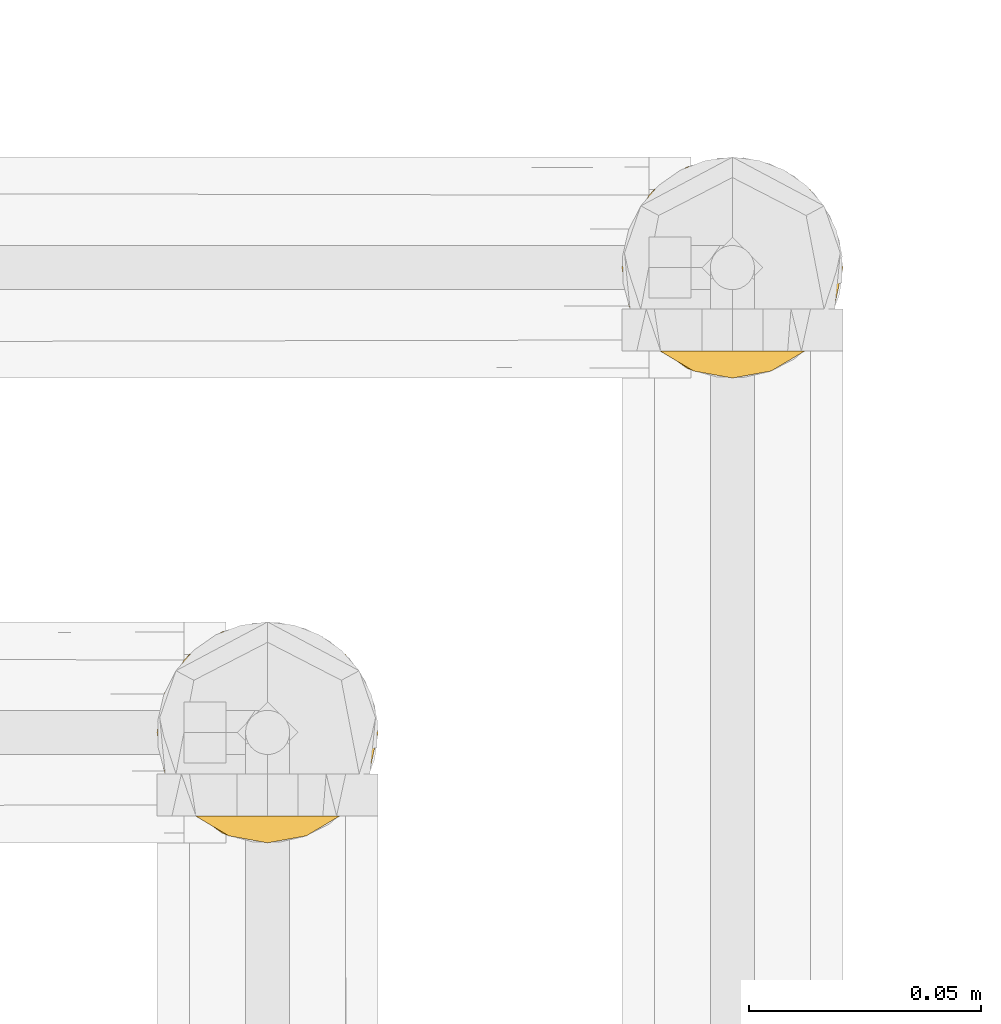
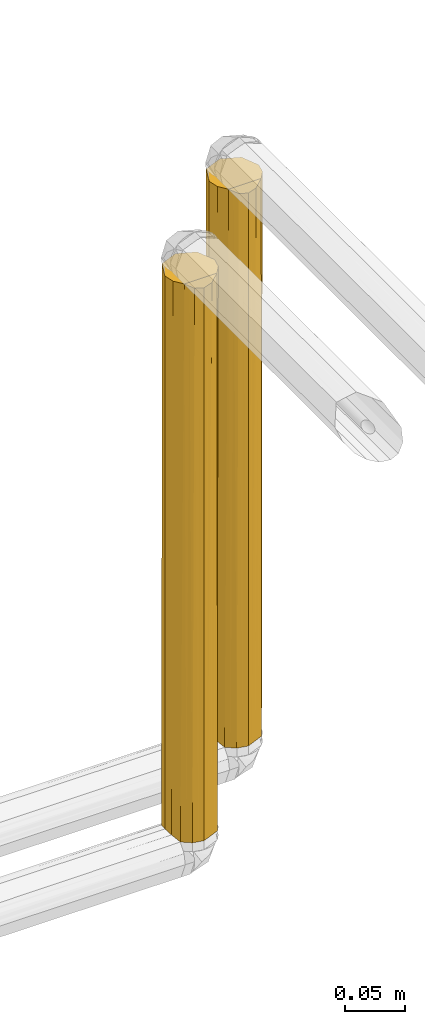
# One storey, part 229 of 652: 2 coverings.
"""IFC2X3 building model written with IfcOpenShell, lengths in millimetres."""

from ifc_helpers import new_model, entity, si_unit, converted_unit, direction, frame, origin, place, context, subcontext, project, spatial, faceted_brep, material, type_object, element, save


model = new_model("IFC2X3")

# Units and contexts
model_context = context("Model", 3, precision=0.01, world=frame((0.0, 0.0, 308426.39999999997)), true_north=direction((6.123233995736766e-17, 1.0)))
plan_context = context("Plan", 3, precision=0.01, world=frame((0.0, 0.0, 308426.39999999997)), true_north=direction((6.123233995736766e-17, 1.0)))
body_context = subcontext(model_context, "Body", "Model", "MODEL_VIEW")
ifc_project = project(units=[si_unit("LENGTHUNIT", "METRE", prefix="MILLI"), si_unit("AREAUNIT", "SQUARE_METRE"), si_unit("VOLUMEUNIT", "CUBIC_METRE"), converted_unit("PLANEANGLEUNIT", "DEGREE", entity("IfcPlaneAngleMeasure", 0.017453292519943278), si_unit("PLANEANGLEUNIT", "RADIAN"), dimensions=[0, 0, 0, 0, 0, 0, 0])], contexts=[model_context, plan_context])

# Site, building, storey
site_placement = place(None, origin())
site = spatial("IfcSite", under=ifc_project, at=site_placement, Name="Default", CompositionType="ELEMENT")
building_placement = place(site_placement, origin())
building = spatial("IfcBuilding", under=site, at=building_placement, CompositionType="ELEMENT")
storey_placement = place(building_placement, frame((0.0, 0.0, 1730.6999999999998)))
storey = spatial("IfcBuildingStorey", under=building, at=storey_placement, Name="EG_Produktion_FFB", CompositionType="ELEMENT", Elevation=1730.6999999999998)

# Coverings
ifc_material = material(Name="Dämmung - Armaflex-Schlauch")
covering_type = type_object("IfcCoveringType", Name="Rohrdämmung außen:Armaflex-Schlauch", PredefinedType="INSULATION")
covering_1_placement = place(storey_placement, frame((73106.95466089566, 79829.64488314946, 2716.3549777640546)))
element("IfcCovering", 1, at=covering_1_placement, inside=storey, type_object=covering_type, material=ifc_material, Name="Rohrdämmung außen:Armaflex-Schlauch", ObjectType="Rohrdämmung außen:Armaflex-Schlauch", PredefinedType="INSULATION", context=body_context, shape_type="Brep", body=[
    faceted_brep([(7.407522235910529, 9.787128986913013, 1.5952722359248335), (7.407522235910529, 40.92841548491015, 1.5952722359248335), (11.4481056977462, 43.951164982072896, 1.595272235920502), (15.48868915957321, 46.97391447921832, 1.595272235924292), (20.423230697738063, 48.047093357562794, 1.595272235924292), (25.357772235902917, 49.12027223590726, 1.595272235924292), (29.864407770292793, 47.253562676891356, 1.595272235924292), (33.759084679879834, 45.64033467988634, 1.595272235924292), (37.95974090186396, 43.90036590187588, 1.595272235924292), (42.16039712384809, 42.160397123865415, 1.595272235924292), (43.90036590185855, 37.95974090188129, 1.595272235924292), (45.640334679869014, 33.759084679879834, 1.595272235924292), (47.253562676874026, 29.86440777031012, 1.5952722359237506), (49.1202722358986, 25.35777223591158, 1.5952722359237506), (47.38030345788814, 21.157116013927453, 1.5952722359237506), (45.640334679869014, 16.956459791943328, 1.595272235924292), (43.90036590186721, 12.755803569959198, 1.595272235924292), (42.16039712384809, 8.555147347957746, 1.595272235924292), (37.95974090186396, 6.815178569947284, 1.595272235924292), (33.759084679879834, 5.075209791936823, 1.595272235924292), (29.558428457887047, 3.3352410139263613, 1.595272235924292), (25.357772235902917, 1.5952722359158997, 1.595272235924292), (20.423230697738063, 2.6684511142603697, 1.595272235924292), (15.48868915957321, 3.7416299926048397, 1.595272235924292), (11.448105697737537, 6.764379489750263, 1.595272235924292), (9.787128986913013, 7.407522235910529, 565.6947722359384), (40.928415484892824, 7.407522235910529, 565.6947722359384), (43.95116498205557, 11.448105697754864, 565.6947722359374), (46.97391447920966, 15.488689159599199, 565.6947722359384), (48.047093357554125, 20.42323069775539, 565.6947722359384), (49.12027223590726, 25.35777223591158, 565.6947722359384), (47.253562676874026, 29.864407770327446, 565.6947722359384), (45.38685311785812, 34.37104330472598, 565.6947722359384), (43.773625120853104, 38.2657202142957, 565.6947722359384), (42.160397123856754, 42.160397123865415, 565.6947722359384), (37.95974090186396, 43.90036590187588, 565.6947722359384), (33.759084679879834, 45.640334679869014, 565.6947722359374), (29.558428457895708, 47.3803034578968, 565.6947722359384), (25.35777223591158, 49.12027223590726, 565.6947722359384), (20.851136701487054, 47.253562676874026, 565.6947722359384), (16.956459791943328, 45.64033467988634, 565.6947722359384), (12.755803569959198, 43.90036590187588, 565.6947722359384), (8.55514734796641, 42.160397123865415, 565.6947722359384), (6.815178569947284, 37.95974090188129, 565.6947722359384), (5.075209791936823, 33.759084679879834, 565.6947722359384), (3.3352410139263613, 29.558428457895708, 565.6947722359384), (1.5952722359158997, 25.35777223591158, 565.6947722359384), (2.668451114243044, 20.42323069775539, 565.6947722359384), (3.741629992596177, 15.488689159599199, 565.6947722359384), (6.764379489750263, 11.44810569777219, 565.6947722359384), (33.66781407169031, 3.095705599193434, 561.3829555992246), (37.2981147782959, 5.251613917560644, 563.538863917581), (29.51279315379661, 2.345488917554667, 560.6327389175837), (25.35777223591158, 1.5952722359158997, 559.8825222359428), (13.41742969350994, 5.2516139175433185, 563.538863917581), (17.04773040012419, 3.095705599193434, 561.3829555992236), (20.457981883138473, 2.4799619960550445, 560.7672119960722), (1.5952722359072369, 25.35777223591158, 7.407522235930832), (2.345488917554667, 21.20275131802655, 6.6573055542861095), (3.095705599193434, 17.04773040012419, 5.907088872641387), (5.251613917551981, 13.41742969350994, 3.7511805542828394), (2.345488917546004, 29.51279315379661, 6.657305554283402), (3.095705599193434, 33.66781407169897, 5.907088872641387), (5.251613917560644, 37.29811477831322, 3.751180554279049)], [[[0, 1, 2, 3, 4, 5, 6, 7, 8, 9, 10, 11, 12, 13, 14, 15, 16, 17, 18, 19, 20, 21, 22, 23, 24]], [[25, 26, 27, 28, 29, 30, 31, 32, 33, 34, 35, 36, 37, 38, 39, 40, 41, 42, 43, 44, 45, 46, 47, 48, 49]], [[30, 14, 13]], [[19, 50, 20]], [[14, 30, 29]], [[29, 15, 14]], [[26, 17, 27]], [[18, 26, 51]], [[51, 50, 19]], [[52, 53, 21]], [[28, 27, 16]], [[27, 17, 16]], [[28, 16, 15]], [[20, 50, 52]], [[17, 26, 18]], [[29, 28, 15]], [[51, 19, 18]], [[52, 21, 20]], [[54, 25, 24]], [[55, 22, 56]], [[21, 53, 56]], [[22, 55, 23]], [[21, 56, 22]], [[54, 24, 23]], [[46, 57, 58]], [[47, 59, 48]], [[23, 55, 54]], [[60, 0, 49]], [[58, 59, 47]], [[48, 59, 60]], [[25, 0, 24]], [[48, 60, 49]], [[0, 25, 49]], [[46, 58, 47]], [[46, 61, 57]], [[4, 40, 39]], [[61, 46, 45]], [[62, 44, 63]], [[2, 42, 41]], [[42, 2, 1]], [[40, 4, 3]], [[1, 43, 42]], [[44, 62, 45]], [[39, 5, 4]], [[1, 63, 43]], [[41, 3, 2]], [[41, 40, 3]], [[45, 62, 61]], [[39, 38, 5]], [[63, 44, 43]], [[5, 38, 37, 36, 35, 34, 9, 8, 7, 6]], [[9, 34, 33, 32, 31, 30, 13, 12, 11, 10]], [[61, 62, 63, 1, 0, 60, 59, 58, 57]], [[26, 25, 54, 55, 56, 53, 52, 50, 51]]]),
])
covering_2_placement = place(storey_placement, frame((73206.95466089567, 79929.64488314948, 2716.3549777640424)))
element("IfcCovering", 2, at=covering_2_placement, inside=storey, type_object=covering_type, material=ifc_material, Name="Rohrdämmung außen:Armaflex-Schlauch", ObjectType="Rohrdämmung außen:Armaflex-Schlauch", PredefinedType="INSULATION", context=body_context, shape_type="Brep", body=[
    faceted_brep([(7.407522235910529, 40.92841548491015, 1.5952722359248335), (11.4481056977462, 43.951164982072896, 1.5952722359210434), (15.48868915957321, 46.97391447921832, 1.595272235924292), (20.423230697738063, 48.047093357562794, 1.595272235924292), (25.357772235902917, 49.12027223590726, 1.595272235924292), (29.864407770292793, 47.253562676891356, 1.595272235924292), (33.759084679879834, 45.64033467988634, 1.595272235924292), (37.95974090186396, 43.90036590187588, 1.595272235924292), (42.16039712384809, 42.160397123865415, 1.595272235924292), (43.90036590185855, 37.95974090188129, 1.595272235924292), (45.640334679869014, 33.759084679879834, 1.595272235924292), (47.25356267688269, 29.86440777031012, 1.5952722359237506), (49.1202722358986, 25.35777223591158, 1.5952722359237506), (47.38030345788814, 21.157116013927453, 1.595272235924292), (45.640334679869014, 16.956459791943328, 1.595272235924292), (43.90036590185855, 12.755803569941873, 1.5952722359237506), (42.16039712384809, 8.555147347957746, 1.595272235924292), (37.95974090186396, 6.815178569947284, 1.595272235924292), (33.759084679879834, 5.075209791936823, 1.595272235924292), (29.558428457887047, 3.3352410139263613, 1.595272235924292), (25.357772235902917, 1.5952722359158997, 1.595272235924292), (20.423230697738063, 2.6684511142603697, 1.595272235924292), (15.488689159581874, 3.7416299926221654, 1.595272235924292), (11.4481056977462, 6.764379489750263, 1.595272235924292), (7.407522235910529, 9.787128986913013, 1.5952722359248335), (9.787128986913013, 7.407522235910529, 565.6947722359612), (40.928415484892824, 7.407522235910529, 565.6947722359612), (43.95116498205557, 11.448105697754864, 565.6947722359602), (46.97391447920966, 15.488689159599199, 565.6947722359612), (48.047093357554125, 20.42323069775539, 565.6947722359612), (49.12027223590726, 25.35777223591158, 565.6947722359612), (47.25356267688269, 29.86440777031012, 565.6947722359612), (45.386853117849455, 34.37104330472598, 565.6947722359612), (43.773625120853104, 38.2657202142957, 565.6947722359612), (42.160397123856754, 42.160397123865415, 565.6947722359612), (37.95974090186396, 43.90036590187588, 565.6947722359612), (33.759084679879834, 45.64033467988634, 565.6947722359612), (29.558428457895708, 47.3803034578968, 565.6947722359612), (25.35777223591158, 49.12027223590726, 565.6947722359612), (20.851136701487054, 47.253562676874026, 565.6947722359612), (16.956459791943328, 45.64033467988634, 565.6947722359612), (12.755803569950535, 43.90036590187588, 565.6947722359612), (8.55514734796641, 42.160397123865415, 565.6947722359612), (6.815178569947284, 37.95974090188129, 565.6947722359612), (5.075209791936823, 33.759084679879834, 565.6947722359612), (3.3352410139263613, 29.558428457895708, 565.6947722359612), (1.5952722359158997, 25.35777223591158, 565.6947722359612), (2.668451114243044, 20.42323069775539, 565.6947722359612), (3.741629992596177, 15.488689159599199, 565.6947722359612), (6.764379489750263, 11.44810569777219, 565.6947722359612), (33.66781407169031, 3.095705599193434, 561.3829555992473), (37.2981147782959, 5.251613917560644, 563.5388639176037), (29.51279315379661, 2.345488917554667, 560.6327389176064), (25.35777223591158, 1.5952722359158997, 559.8825222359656), (13.41742969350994, 5.251613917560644, 563.5388639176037), (17.04773040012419, 3.095705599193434, 561.3829555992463), (20.45798188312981, 2.4799619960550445, 560.7672119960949), (1.5952722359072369, 25.35777223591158, 7.407522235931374), (2.345488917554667, 21.20275131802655, 6.657305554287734), (3.095705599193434, 17.04773040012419, 5.907088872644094), (5.251613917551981, 13.41742969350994, 3.751180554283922), (2.345488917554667, 29.51279315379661, 6.657305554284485), (3.095705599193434, 33.66781407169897, 5.9070888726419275), (5.251613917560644, 37.29811477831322, 3.751180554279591)], [[[0, 1, 2, 3, 4, 5, 6, 7, 8, 9, 10, 11, 12, 13, 14, 15, 16, 17, 18, 19, 20, 21, 22, 23, 24]], [[25, 26, 27, 28, 29, 30, 31, 32, 33, 34, 35, 36, 37, 38, 39, 40, 41, 42, 43, 44, 45, 46, 47, 48, 49]], [[30, 13, 12]], [[18, 50, 19]], [[13, 30, 29]], [[29, 14, 13]], [[26, 16, 27]], [[17, 26, 51]], [[51, 50, 18]], [[52, 53, 20]], [[28, 27, 15]], [[27, 16, 15]], [[28, 15, 14]], [[19, 50, 52]], [[16, 26, 17]], [[29, 28, 14]], [[51, 18, 17]], [[52, 20, 19]], [[54, 25, 23]], [[55, 21, 56]], [[20, 53, 56]], [[21, 55, 22]], [[20, 56, 21]], [[54, 23, 22]], [[46, 57, 58]], [[47, 59, 48]], [[22, 55, 54]], [[60, 24, 49]], [[58, 59, 47]], [[48, 59, 60]], [[25, 24, 23]], [[48, 60, 49]], [[24, 25, 49]], [[46, 58, 47]], [[46, 61, 57]], [[3, 40, 39]], [[61, 46, 45]], [[62, 44, 63]], [[1, 42, 41]], [[42, 1, 0]], [[40, 3, 2]], [[0, 43, 42]], [[44, 62, 45]], [[39, 4, 3]], [[0, 63, 43]], [[41, 2, 1]], [[41, 40, 2]], [[45, 62, 61]], [[39, 38, 4]], [[63, 44, 43]], [[4, 38, 37, 36, 35, 34, 8, 7, 6, 5]], [[8, 34, 33, 32, 31, 30, 12, 11, 10, 9]], [[61, 62, 63, 0, 24, 60, 59, 58, 57]], [[26, 25, 54, 55, 56, 53, 52, 50, 51]]]),
])

save(model, "model.ifc")
